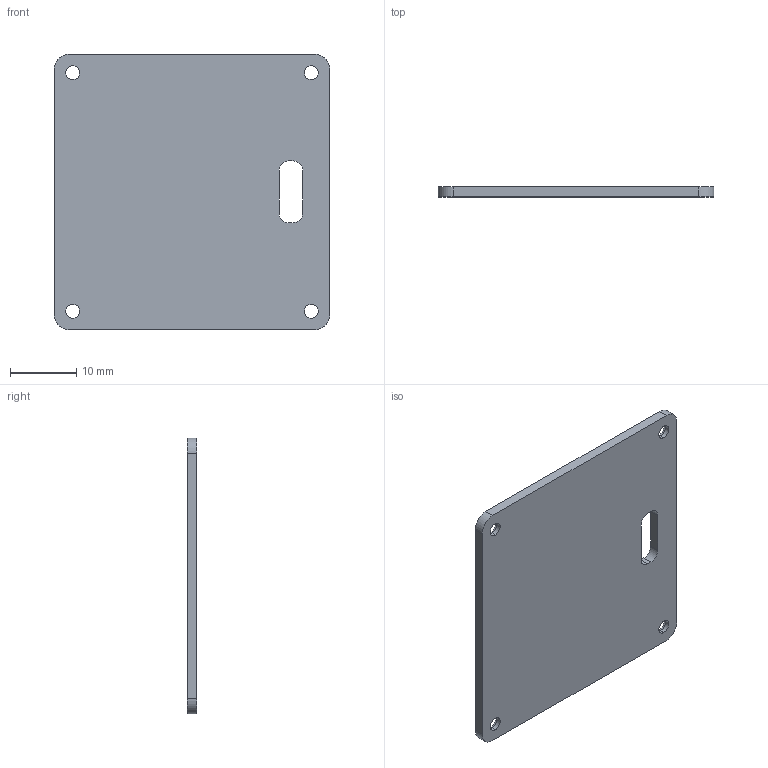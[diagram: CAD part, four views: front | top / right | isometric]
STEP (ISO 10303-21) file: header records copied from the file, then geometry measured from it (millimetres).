
FILE_DESCRIPTION((''),'2;1');
FILE_NAME('KEY_BOTTOM_COVER','2025-06-04T16:08:25',('jianga3x'),('INTEL'),'CREO PARAMETRIC BY PTC INC, 2023294','CREO PARAMETRIC BY PTC INC, 2023294','');
FILE_SCHEMA(('CONFIG_CONTROL_DESIGN'));
Length unit declared in the file: millimetre
Products named in the file (1): KEY_BOTTOM_COVER
Bounding box: 41.6 x 1.5 x 41.6 mm (x, y, z)
Volume: 2501.4 mm3; surface area: 3693.7 mm2
Topology: 1 solids, 1 shells, 38 faces, 96 edges, 64 vertices
Faces by surface type: cylinder 24, plane 14
Entity records: 1226 total; most frequent: DIRECTION 220, CARTESIAN_POINT 198, ORIENTED_EDGE 192, EDGE_CURVE 96, AXIS2_PLACEMENT_3D 86, VERTEX_POINT 64, EDGE_LOOP 52, VECTOR 48
